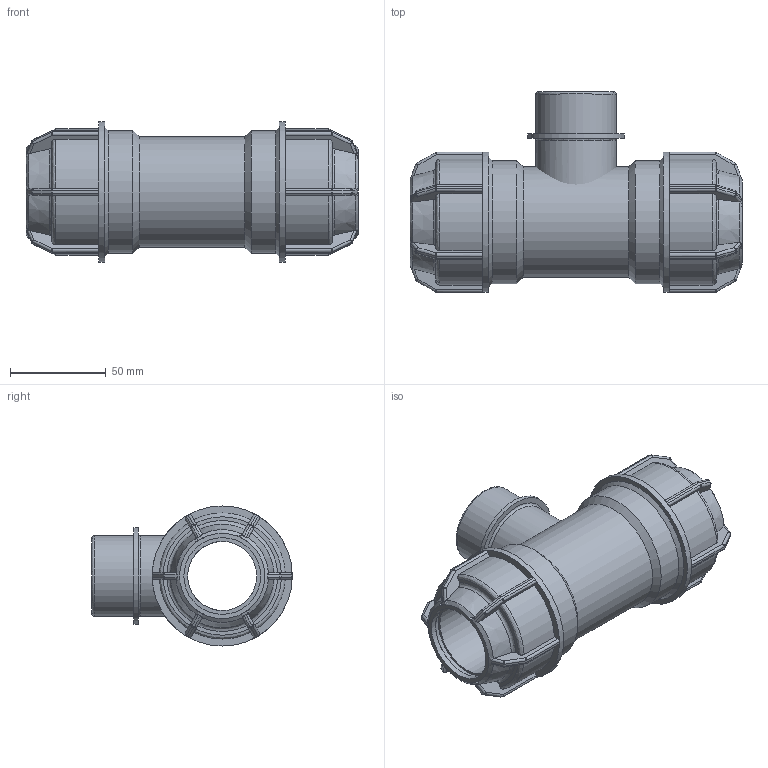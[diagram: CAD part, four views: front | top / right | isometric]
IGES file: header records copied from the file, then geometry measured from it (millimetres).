
Global section: file name: 148400040013.ipt; native system: Autodesk Inventor 2015; preprocessor: unknown; author: KIM; date: 20180409.131234; units: millimetre
Bounding box: 173 x 104.5 x 73 mm (x, y, z)
Volume: 314165 mm3; surface area: 79728.6 mm2
Topology: 2 solids, 2 shells, 414 faces, 996 edges, 584 vertices
Faces by surface type: plane 196, cylinder 116, sphere 48, revolution 38, cone 16
Full cylindrical faces by diameter (mm): 41.91 x2, 50.292 x1, 57.6 x1, 64 x2, 73 x2
